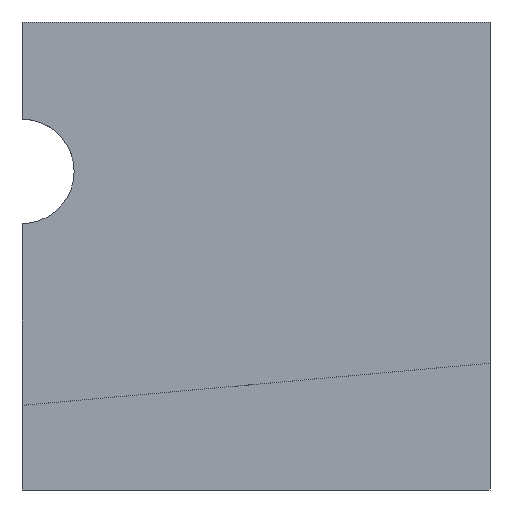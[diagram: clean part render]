
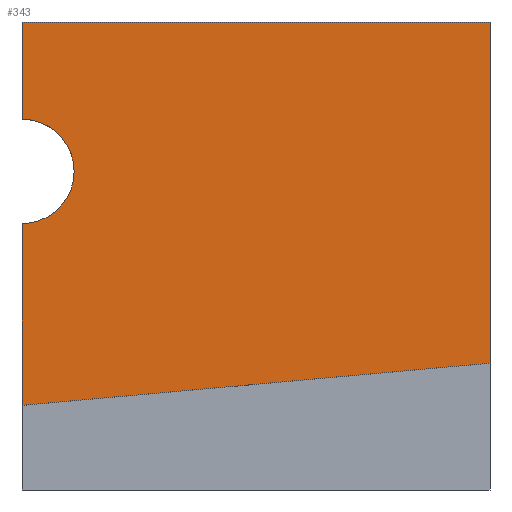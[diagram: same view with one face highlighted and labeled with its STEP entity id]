
A CAD part, front view. The second image highlights one B-rep face of the part: STEP entity #343.
In plain terms, the highlighted planar face has unit normal (0, -1, 0).
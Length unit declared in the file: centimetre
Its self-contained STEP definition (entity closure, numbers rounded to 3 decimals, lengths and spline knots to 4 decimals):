
#19 = CARTESIAN_POINT ( 'NONE',  ( 0., 0., 680.7502 ) ) ;
#30 = CARTESIAN_POINT ( 'NONE',  ( 0., 0., 1000. ) ) ;
#63 = VECTOR ( 'NONE', #110, 100. ) ;
#76 = DIRECTION ( 'NONE',  ( 0., 0., -1. ) ) ;
#77 = EDGE_CURVE ( 'NONE', #494, #583, #507, .T. ) ;
#103 = CARTESIAN_POINT ( 'NONE',  ( 1000., 0., 270.9233 ) ) ;
#110 = DIRECTION ( 'NONE',  ( 0., 0., -1. ) ) ;
#112 = EDGE_CURVE ( 'NONE', #688, #627, #902, .T. ) ;
#116 = VECTOR ( 'NONE', #76, 100. ) ;
#134 = ORIENTED_EDGE ( 'NONE', *, *, #112, .T. ) ;
#135 = VECTOR ( 'NONE', #428, 100. ) ;
#195 = CARTESIAN_POINT ( 'NONE',  ( 0., 0., 1000. ) ) ;
#211 = DIRECTION ( 'NONE',  ( 0., 1., 0. ) ) ;
#237 = DIRECTION ( 'NONE',  ( 0., 0., -1. ) ) ;
#238 = EDGE_CURVE ( 'NONE', #627, #583, #736, .T. ) ;
#288 = CARTESIAN_POINT ( 'NONE',  ( 1000., 0., 1000. ) ) ;
#294 = VERTEX_POINT ( 'NONE', #288 ) ;
#333 = ORIENTED_EDGE ( 'NONE', *, *, #238, .T. ) ;
#343 = ADVANCED_FACE ( 'NONE', ( #1285 ), #836, .F. ) ;
#378 = CARTESIAN_POINT ( 'NONE',  ( 0., 0., 792.1968 ) ) ;
#428 = DIRECTION ( 'NONE',  ( 1., 0., 0. ) ) ;
#431 = VECTOR ( 'NONE', #237, 100. ) ;
#432 = DIRECTION ( 'NONE',  ( 0., 0., 1. ) ) ;
#490 = CARTESIAN_POINT ( 'NONE',  ( 0., 0., 569.3035 ) ) ;
#494 = VERTEX_POINT ( 'NONE', #103 ) ;
#507 = LINE ( 'NONE', #803, #1252 ) ;
#560 = ORIENTED_EDGE ( 'NONE', *, *, #77, .F. ) ;
#583 = VERTEX_POINT ( 'NONE', #1281 ) ;
#605 = VERTEX_POINT ( 'NONE', #195 ) ;
#612 = EDGE_CURVE ( 'NONE', #605, #688, #972, .T. ) ;
#627 = VERTEX_POINT ( 'NONE', #490 ) ;
#679 = ORIENTED_EDGE ( 'NONE', *, *, #847, .F. ) ;
#688 = VERTEX_POINT ( 'NONE', #378 ) ;
#726 = LINE ( 'NONE', #30, #135 ) ;
#736 = LINE ( 'NONE', #1134, #431 ) ;
#792 = CARTESIAN_POINT ( 'NONE',  ( 0., 0., 1000. ) ) ;
#803 = CARTESIAN_POINT ( 'NONE',  ( 1000., 0., 270.9233 ) ) ;
#825 = ORIENTED_EDGE ( 'NONE', *, *, #612, .T. ) ;
#836 = PLANE ( 'NONE',  #1151 ) ;
#847 = EDGE_CURVE ( 'NONE', #294, #494, #1000, .T. ) ;
#860 = DIRECTION ( 'NONE',  ( 0., 0., 1. ) ) ;
#902 = CIRCLE ( 'NONE', #1117, 111.4466 ) ;
#929 = EDGE_CURVE ( 'NONE', #605, #294, #726, .T. ) ;
#972 = LINE ( 'NONE', #792, #116 ) ;
#1000 = LINE ( 'NONE', #1114, #63 ) ;
#1022 = EDGE_LOOP ( 'NONE', ( #825, #134, #333, #560, #679, #1277 ) ) ;
#1114 = CARTESIAN_POINT ( 'NONE',  ( 1000., 0., 1000. ) ) ;
#1117 = AXIS2_PLACEMENT_3D ( 'NONE', #19, #211, #432 ) ;
#1134 = CARTESIAN_POINT ( 'NONE',  ( 0., 0., 1000. ) ) ;
#1151 = AXIS2_PLACEMENT_3D ( 'NONE', #1241, #1153, #860 ) ;
#1153 = DIRECTION ( 'NONE',  ( 0., 1., 0. ) ) ;
#1196 = DIRECTION ( 'NONE',  ( -0.996, 0., -0.09 ) ) ;
#1241 = CARTESIAN_POINT ( 'NONE',  ( 0., 0., 1000. ) ) ;
#1252 = VECTOR ( 'NONE', #1196, 100. ) ;
#1277 = ORIENTED_EDGE ( 'NONE', *, *, #929, .F. ) ;
#1281 = CARTESIAN_POINT ( 'NONE',  ( 0., 0., 180.8134 ) ) ;
#1285 = FACE_OUTER_BOUND ( 'NONE', #1022, .T. ) ;
